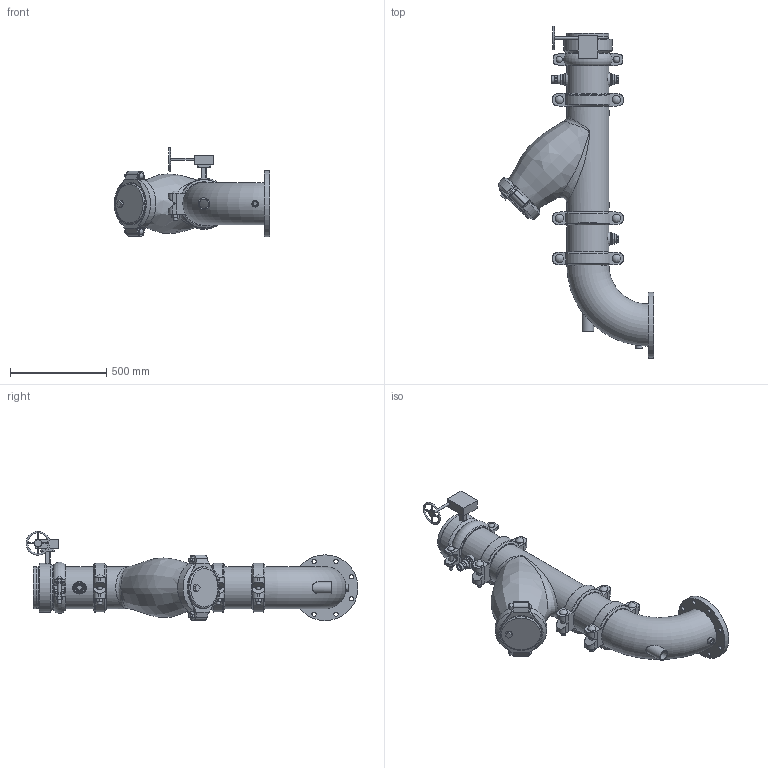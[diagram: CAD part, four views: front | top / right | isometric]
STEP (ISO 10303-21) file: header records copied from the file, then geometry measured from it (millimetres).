
FILE_DESCRIPTION(/* description */ ('VIC SVI PUMP DROP HORZ S/382 (OGSxFLG) (S/924-0.75)','CAx-IF Rec.Pracs.---Representation and Presentation of Product Manufacturing Information (PMI)---4.0---2014-10-13'),/* implementation_level */ '2;1');
FILE_NAME(/* name */ 'C:\Users\Vjadhav\AppData\Roaming\Autodesk\ApplicationPlugins\Victaulic.Temp\A115\Series 382 (OGSxFLG)_924 (0.75)_08.0x08.0 (200x200).stp',/* time_stamp */ '2022-03-17T12:20:25+06:00',/* author */ ('kkamble'),/* organization */ ('Victaulic'),/* preprocessor_version */ 'ST-DEVELOPER v17.2',/* originating_system */ 'Autodesk Inventor 2019',/* authorisation */ '');
FILE_SCHEMA (('AP242_MANAGED_MODEL_BASED_3D_ENGINEERING_MIM_LF { 1 0 10303 442 1 1 4 }'));
Length unit declared in the file: inch
Products named in the file (13): 382_924 (0.75)-08.0x08.0; PIPE-08.0; 107N-08.0; 732-08.0; 732-08.0_1; 07-08.0; 732-08.0_2; PIPE-08.3; 761-08.0; 177N-08.0; 924-04.0x0.75; 923-10.0x0.75; 100F-08.0
Assembly tree (15 placements, depth 3):
  382_924 (0.75)-08.0x08.0
    PIPE-08.0
    107N-08.0
    732-08.0
      732-08.0_1
      07-08.0
      732-08.0_2
    177N-08.0  x3
    PIPE-08.3
    761-08.0
    924-04.0x0.75
    923-10.0x0.75  x2
    100F-08.0
Bounding box: 809.75 x 1728.59 x 465.06 mm (x, y, z)
Volume: 23256840 mm3; surface area: 4304605.2 mm2
Topology: 14 solids, 17 shells, 847 faces, 2212 edges, 1469 vertices
Faces by surface type: plane 476, cylinder 274, torus 34, cone 27, bspline 26, sphere 10
Full cylindrical faces by diameter (mm): 8.636 x4, 12.446 x1, 12.7 x1, 19.05 x8, 20.93 x1, 21.336 x2, 22.225 x6, 22.352 x8, 22.86 x1, 26.67 x5, 32.537 x4, 34.29 x1, 38.1 x1, 38.608 x1, 39.125 x1, 42.85 x6, 45.974 x6, 48.26 x1, 55.118 x1, 55.626 x3, 60.96 x1, 76.2 x2, 190.5 x1, 202.463 x1, 202.717 x5, 202.819 x1, 206.375 x5, 214.401 x11, 219.075 x26, 254 x1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
Entity records: 24387 total; most frequent: CARTESIAN_POINT 7919, DIRECTION 3336, ORIENTED_EDGE 3128, EDGE_CURVE 1564, AXIS2_PLACEMENT_3D 1276, VERTEX_POINT 1046, LINE 784, VECTOR 784
